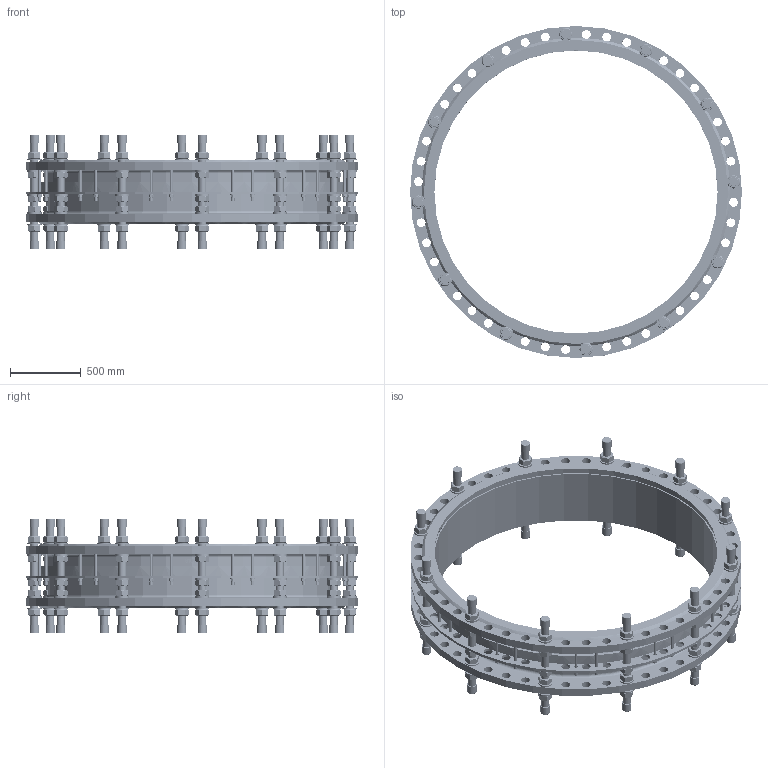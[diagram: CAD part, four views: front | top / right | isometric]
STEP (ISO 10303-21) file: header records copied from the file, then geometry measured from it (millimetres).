
FILE_DESCRIPTION(('STEP AP242'), '1');
FILE_NAME('Ìîíòàæíàÿ âñòàâêà', '', ('UNSPECIFIED'), ('UNSPECIFIED'), 'C3D Converter', 'C3D Toolkit', '');
FILE_SCHEMA(('AP242_MANAGED_MODEL_BASED_3D_ENGINEERING_MIM_LF { 1 0 10303 442 1 1 4 }'));
Length unit declared in the file: millimetre
Products named in the file (13): ШМ.М16.310; ШМ.М16.206
Assembly tree (256 placements, depth 2):
  (unnamed)
    (unnamed)
    (unnamed)
    (unnamed)
    (unnamed)
    (unnamed)  x60
    (unnamed)  x60
    ШМ.М16.310  x12
    (unnamed)  x24
    (unnamed)  x24
    (unnamed)  x24
    ШМ.М16.206  x24
    (unnamed)  x24
Bounding box: 2344 x 2344 x 811.2 mm (x, y, z)
Volume: 256217085.4 mm3; surface area: 22329618.9 mm2
Topology: 260 solids, 260 shells, 2200 faces, 4893 edges, 3148 vertices
Faces by surface type: plane 1127, cylinder 598, cone 414, torus 50, extrusion 11
Full cylindrical faces by diameter (mm): 20 x96, 21 x24, 23 x24, 24 x24, 33.221 x1, 37 x24, 56 x96, 58 x60, 62 x144, 67.2 x24, 100 x60, 2000 x2, 2038 x2, 2057 x2, 2095 x1, 2114 x1, 2130 x1, 2168 x1, 2344 x3
Entity records: 31401 total; most frequent: CARTESIAN_POINT 13468, DIRECTION 2826, ORIENTED_EDGE 2018, AXIS2_PLACEMENT_3D 1376, EDGE_CURVE 1009, EDGE_LOOP 899, VERTEX_POINT 812, CIRCLE 770
